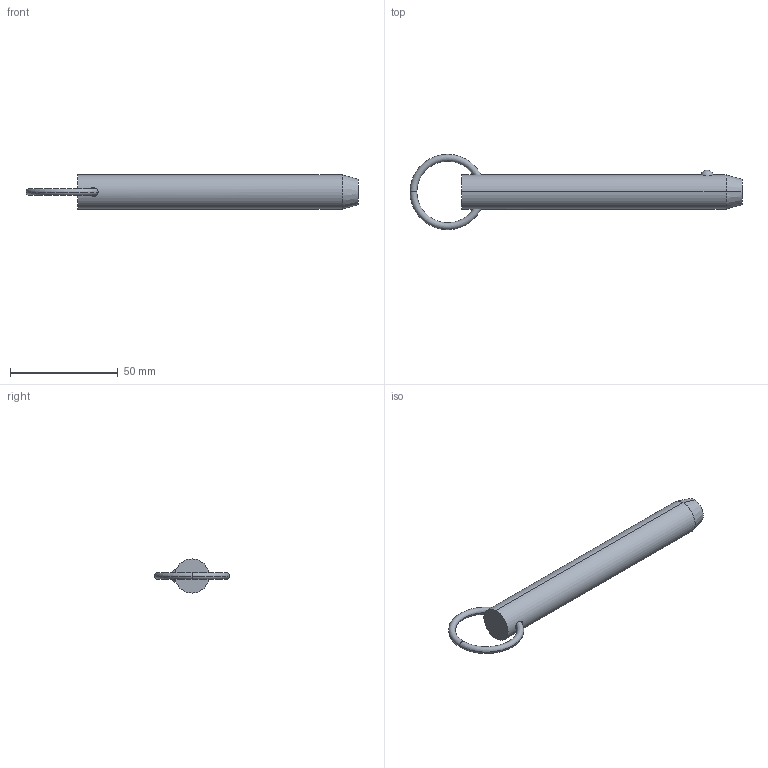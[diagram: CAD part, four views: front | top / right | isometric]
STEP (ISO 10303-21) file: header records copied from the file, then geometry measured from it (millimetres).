
FILE_DESCRIPTION (( 'STEP AP203' ), '1' );
FILE_NAME ('33010.W6240.step', '2024-11-01T10:42:08', ( '' ), ( '' ), 'SwSTEP 2.0', 'SolidWorks 2019', '' );
FILE_SCHEMA (( 'CONFIG_CONTROL_DESIGN' ));
Length unit declared in the file: millimetre
Products named in the file (3): Part2_33010.W6240; Part1_33010.W6240; 33010.W6240
Assembly tree (2 placements, depth 2):
  33010.W6240
    Part1_33010.W6240
    Part2_33010.W6240
Bounding box: 154.11 x 34.93 x 15.88 mm (x, y, z)
Volume: 26068.7 mm3; surface area: 7957.8 mm2
Topology: 2 solids, 2 shells, 16 faces, 31 edges, 18 vertices
Faces by surface type: torus 8, sphere 2, cone 2, cylinder 2, plane 2
Entity records: 889 total; most frequent: CARTESIAN_POINT 246, DIRECTION 88, ORIENTED_EDGE 62, AXIS2_PLACEMENT_3D 42, EDGE_CURVE 31, PERSON_AND_ORGANIZATION 26, CIRCLE 21, DATE_AND_TIME 19
